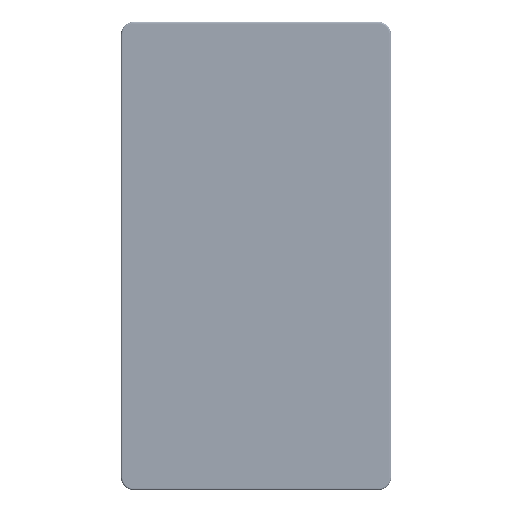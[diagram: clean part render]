
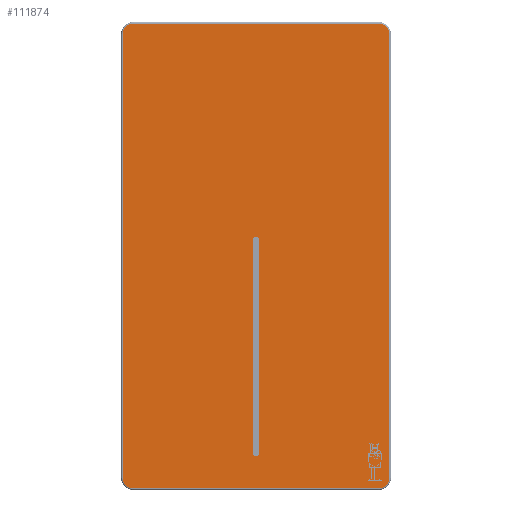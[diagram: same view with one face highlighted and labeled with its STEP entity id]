
A CAD part, top view. The second image highlights one B-rep face of the part: STEP entity #111874.
In plain terms, the highlighted planar face has unit normal (0, 0, 1) as drawn and (0, 0, -1) by its records, which use the part's own axes.
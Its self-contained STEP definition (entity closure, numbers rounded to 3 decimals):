
#11287=LINE('',#240557,#19407);
#11289=LINE('',#240569,#19409);
#11291=LINE('',#240580,#19411);
#11292=LINE('',#240586,#19412);
#11294=LINE('',#240592,#19414);
#11295=LINE('',#240596,#19415);
#19407=VECTOR('',#149569,284.);
#19409=VECTOR('',#149583,157.);
#19411=VECTOR('',#149597,284.);
#19412=VECTOR('',#149606,157.);
#19414=VECTOR('',#149612,136.);
#19415=VECTOR('',#149615,136.);
#22888=PLANE('',#122170);
#24880=FACE_BOUND('',#38527,.T.);
#30854=FACE_OUTER_BOUND('',#38526,.T.);
#38526=EDGE_LOOP('',(#96015,#96016,#96017,#96018,#96019,#96020,#96021,#96022));
#38527=EDGE_LOOP('',(#96023,#96024,#96025,#96026));
#43509=CIRCLE('',#122149,7.);
#43514=CIRCLE('',#122156,7.);
#43518=CIRCLE('',#122162,7.);
#43521=CIRCLE('',#122167,7.);
#43522=CIRCLE('',#122171,2.15);
#43523=CIRCLE('',#122172,2.15);
#52775=VERTEX_POINT('',#240549);
#52776=VERTEX_POINT('',#240551);
#52777=VERTEX_POINT('',#240555);
#52778=VERTEX_POINT('',#240559);
#52780=VERTEX_POINT('',#240565);
#52782=VERTEX_POINT('',#240571);
#52784=VERTEX_POINT('',#240577);
#52785=VERTEX_POINT('',#240582);
#52786=VERTEX_POINT('',#240590);
#52787=VERTEX_POINT('',#240591);
#52788=VERTEX_POINT('',#240593);
#52789=VERTEX_POINT('',#240595);
#67326=EDGE_CURVE('',#52775,#52776,#43509,.T.);
#67329=EDGE_CURVE('',#52776,#52777,#11287,.T.);
#67332=EDGE_CURVE('',#52777,#52778,#43514,.T.);
#67335=EDGE_CURVE('',#52778,#52780,#11289,.T.);
#67338=EDGE_CURVE('',#52780,#52782,#43518,.T.);
#67341=EDGE_CURVE('',#52782,#52784,#11291,.T.);
#67343=EDGE_CURVE('',#52784,#52785,#43521,.T.);
#67344=EDGE_CURVE('',#52785,#52775,#11292,.T.);
#67346=EDGE_CURVE('',#52786,#52787,#11294,.T.);
#67347=EDGE_CURVE('',#52787,#52788,#43522,.T.);
#67348=EDGE_CURVE('',#52788,#52789,#11295,.T.);
#67349=EDGE_CURVE('',#52789,#52786,#43523,.T.);
#96015=ORIENTED_EDGE('',*,*,#67326,.F.);
#96016=ORIENTED_EDGE('',*,*,#67344,.F.);
#96017=ORIENTED_EDGE('',*,*,#67343,.F.);
#96018=ORIENTED_EDGE('',*,*,#67341,.F.);
#96019=ORIENTED_EDGE('',*,*,#67338,.F.);
#96020=ORIENTED_EDGE('',*,*,#67335,.F.);
#96021=ORIENTED_EDGE('',*,*,#67332,.F.);
#96022=ORIENTED_EDGE('',*,*,#67329,.F.);
#96023=ORIENTED_EDGE('',*,*,#67346,.T.);
#96024=ORIENTED_EDGE('',*,*,#67347,.T.);
#96025=ORIENTED_EDGE('',*,*,#67348,.T.);
#96026=ORIENTED_EDGE('',*,*,#67349,.T.);
#111874=ADVANCED_FACE('',(#30854,#24880),#22888,.F.);
#122149=AXIS2_PLACEMENT_3D('',#240552,#149561,#149562);
#122156=AXIS2_PLACEMENT_3D('',#240563,#149576,#149577);
#122162=AXIS2_PLACEMENT_3D('',#240575,#149590,#149591);
#122167=AXIS2_PLACEMENT_3D('',#240584,#149602,#149603);
#122170=AXIS2_PLACEMENT_3D('',#240589,#149610,#149611);
#122171=AXIS2_PLACEMENT_3D('',#240594,#149613,#149614);
#122172=AXIS2_PLACEMENT_3D('',#240597,#149616,#149617);
#149561=DIRECTION('center_axis',(0.,0.,1.));
#149562=DIRECTION('ref_axis',(-0.707,0.707,0.));
#149569=DIRECTION('',(0.,-1.,0.));
#149576=DIRECTION('center_axis',(0.,0.,1.));
#149577=DIRECTION('ref_axis',(-0.707,-0.707,0.));
#149583=DIRECTION('',(1.,0.,0.));
#149590=DIRECTION('center_axis',(0.,0.,1.));
#149591=DIRECTION('ref_axis',(0.707,-0.707,0.));
#149597=DIRECTION('',(0.,1.,0.));
#149602=DIRECTION('center_axis',(0.,0.,1.));
#149603=DIRECTION('ref_axis',(0.707,0.707,0.));
#149606=DIRECTION('',(-1.,0.,0.));
#149610=DIRECTION('center_axis',(0.,0.,1.));
#149611=DIRECTION('ref_axis',(1.,0.,0.));
#149612=DIRECTION('',(0.,-1.,0.));
#149613=DIRECTION('center_axis',(0.,0.,1.));
#149614=DIRECTION('ref_axis',(-1.,0.,0.));
#149615=DIRECTION('',(0.,1.,0.));
#149616=DIRECTION('center_axis',(0.,0.,1.));
#149617=DIRECTION('ref_axis',(-1.,0.,0.));
#240549=CARTESIAN_POINT('',(-78.5,149.,0.));
#240551=CARTESIAN_POINT('',(-85.5,142.,0.));
#240552=CARTESIAN_POINT('Origin',(-78.5,142.,0.));
#240555=CARTESIAN_POINT('',(-85.5,-142.,0.));
#240557=CARTESIAN_POINT('',(-85.5,-75.,0.));
#240559=CARTESIAN_POINT('',(-78.5,-149.,0.));
#240563=CARTESIAN_POINT('Origin',(-78.5,-142.,0.));
#240565=CARTESIAN_POINT('',(78.5,-149.,0.));
#240569=CARTESIAN_POINT('',(43.25,-149.,0.));
#240571=CARTESIAN_POINT('',(85.5,-142.,0.));
#240575=CARTESIAN_POINT('Origin',(78.5,-142.,0.));
#240577=CARTESIAN_POINT('',(85.5,142.,0.));
#240580=CARTESIAN_POINT('',(85.5,75.,0.));
#240582=CARTESIAN_POINT('',(78.5,149.,0.));
#240584=CARTESIAN_POINT('Origin',(78.5,142.,0.));
#240586=CARTESIAN_POINT('',(-43.25,149.,0.));
#240589=CARTESIAN_POINT('Origin',(0.,0.,
0.));
#240590=CARTESIAN_POINT('',(-2.15,10.,0.));
#240591=CARTESIAN_POINT('',(-2.15,-126.,0.));
#240592=CARTESIAN_POINT('',(-2.15,-63.,0.));
#240593=CARTESIAN_POINT('',(2.15,-126.,0.));
#240594=CARTESIAN_POINT('Origin',(0.,-126.,0.));
#240595=CARTESIAN_POINT('',(2.15,10.,0.));
#240596=CARTESIAN_POINT('',(2.15,5.,0.));
#240597=CARTESIAN_POINT('Origin',(0.,10.,0.));
